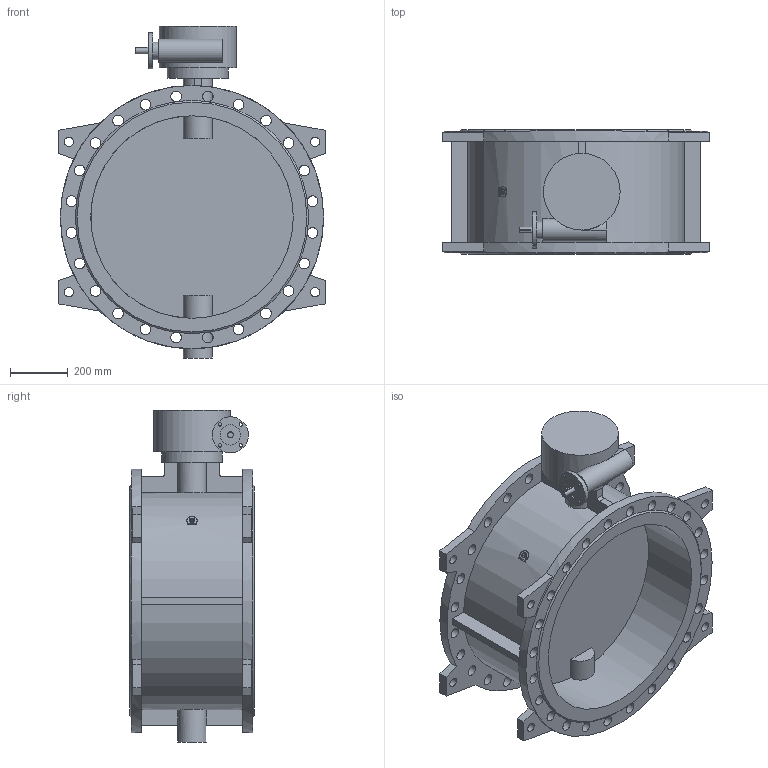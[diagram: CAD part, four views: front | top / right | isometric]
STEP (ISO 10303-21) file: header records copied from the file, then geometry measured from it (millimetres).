
FILE_DESCRIPTION(('STEP AP203'), '1');
FILE_NAME('Çàòâîð 023F.Z DN700 PN16_ð-ð_ôë', '', ('UNSPECIFIED'), ('UNSPECIFIED'), 'ASCON STEP Converter 1.6', 'ASCON Math Kernel', '');
FILE_SCHEMA(('CONFIG_CONTROL_DESIGN'));
Length unit declared in the file: millimetre
Bounding box: 920 x 430 x 1147 mm (x, y, z)
Volume: 75251806.8 mm3; surface area: 4372135.8 mm2
Topology: 1 solids, 1 shells, 195 faces, 652 edges, 434 vertices
Faces by surface type: cylinder 98, plane 95, cone 2
Full cylindrical faces by diameter (mm): 12 x4, 18.5 x4, 20 x1, 23 x4, 32 x8, 37 x48, 60 x1, 70 x1, 80 x1, 100 x1, 125 x1, 210 x1, 265 x1, 700 x2, 910 x2
Entity records: 11324 total; most frequent: CARTESIAN_POINT 4013, DIRECTION 1197, ORIENTED_EDGE 1132, EDGE_CURVE 566, AXIS2_PLACEMENT_3D 503, VERTEX_POINT 433, EDGE_LOOP 373, CIRCLE 308
